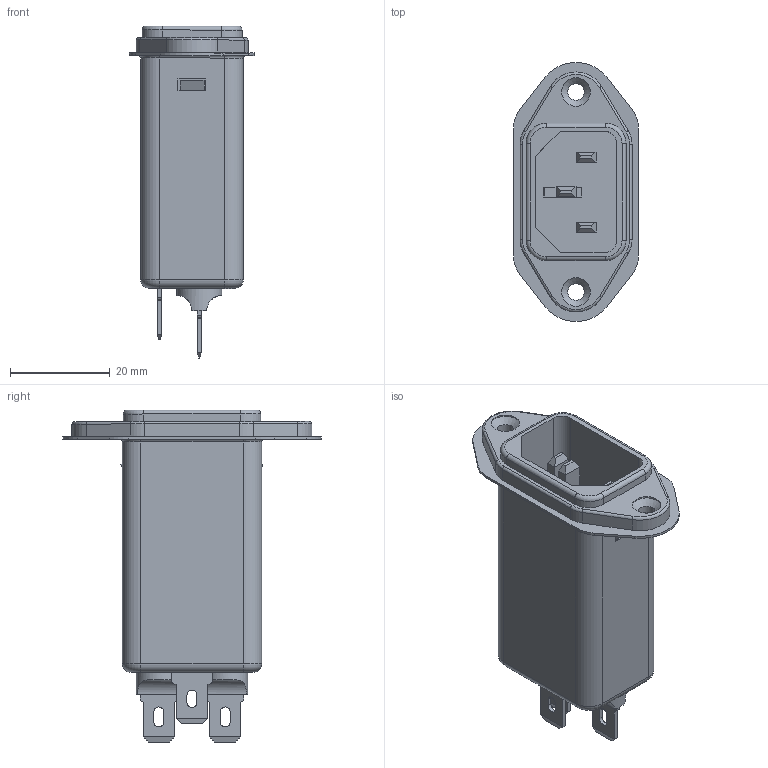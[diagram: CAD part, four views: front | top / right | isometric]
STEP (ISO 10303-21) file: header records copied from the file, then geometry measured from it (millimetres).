
FILE_DESCRIPTION((''),'2;1');
FILE_NAME('D:\_ PRODUCT\FN_PART_FOR_FN9222-XX-07\FN_UPDATE\DB_06 version_Update\3D_inventer\234-176C\FN9222EU-XX-06.stp','2013-03-15T11:36:30',('sayan.penton'),(''),'Autodesk Inventor 2010','Autodesk Inventor 2010','');
FILE_SCHEMA(('AUTOMOTIVE_DESIGN { 1 0 10303 214 1 1 1 1 }'));
Length unit declared in the file: millimetre
Products named in the file (1): Part2
Bounding box: 25 x 51.8 x 66.4 mm (x, y, z)
Volume: 9336.8 mm3; surface area: 20455.6 mm2
Topology: 1 solids, 3 shells, 567 faces, 1647 edges, 1064 vertices
Faces by surface type: plane 405, cylinder 115, bspline 25, torus 20, cone 2
Full cylindrical faces by diameter (mm): 3.3 x2, 4 x2, 5.7 x2, 9 x2, 9.5 x2
Entity records: 19428 total; most frequent: CARTESIAN_POINT 3824, ORIENTED_EDGE 3266, DIRECTION 2997, EDGE_CURVE 1633, VECTOR 1331, LINE 1331, VERTEX_POINT 1062, AXIS2_PLACEMENT_3D 833
